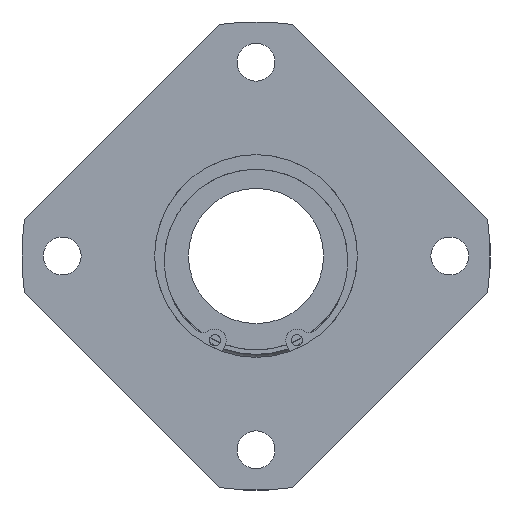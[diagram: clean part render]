
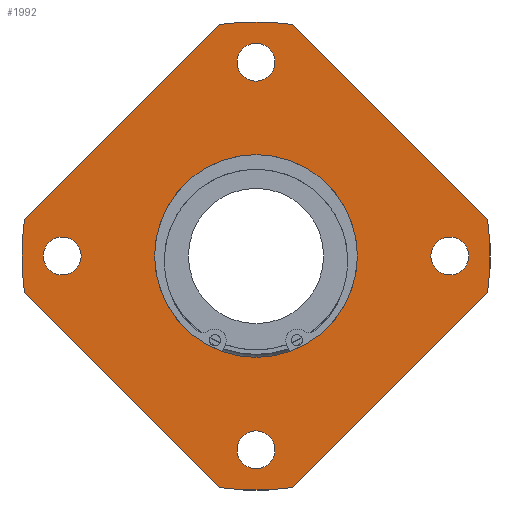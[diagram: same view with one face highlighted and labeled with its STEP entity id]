
A CAD part, left-side view. The second image highlights one B-rep face of the part: STEP entity #1992.
In plain terms, the highlighted planar face has unit normal (-1, 0, 0).
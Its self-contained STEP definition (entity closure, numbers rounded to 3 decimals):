
#60=CARTESIAN_POINT('',(0.0,43.,-4.188));
#61=VERTEX_POINT('',#60);
#62=CARTESIAN_POINT('',(0.0,43.,0.));
#63=DIRECTION('',(1.0,0.0,0.0));
#64=DIRECTION('',(0.0,0.0,-1.0));
#65=AXIS2_PLACEMENT_3D('',#62,#63,#64);
#66=CIRCLE('',#65,4.188);
#67=EDGE_CURVE('',#61,#61,#66,.T.);
#88=CARTESIAN_POINT('',(0.0,-4.188,-43.));
#89=VERTEX_POINT('',#88);
#90=CARTESIAN_POINT('',(0.0,0.,-43.));
#91=DIRECTION('',(1.0,0.0,0.0));
#92=DIRECTION('',(0.0,-1.0,0.0));
#93=AXIS2_PLACEMENT_3D('',#90,#91,#92);
#94=CIRCLE('',#93,4.188);
#95=EDGE_CURVE('',#89,#89,#94,.T.);
#116=CARTESIAN_POINT('',(0.0,-43.,4.188));
#117=VERTEX_POINT('',#116);
#118=CARTESIAN_POINT('',(0.0,-43.,0.));
#119=DIRECTION('',(1.0,0.0,0.0));
#120=DIRECTION('',(0.0,0.0,1.0));
#121=AXIS2_PLACEMENT_3D('',#118,#119,#120);
#122=CIRCLE('',#121,4.188);
#123=EDGE_CURVE('',#117,#117,#122,.T.);
#144=CARTESIAN_POINT('',(0.0,4.188,43.));
#145=VERTEX_POINT('',#144);
#146=CARTESIAN_POINT('',(0.0,0.0,43.));
#147=DIRECTION('',(1.0,0.0,0.0));
#148=DIRECTION('',(0.0,1.0,0.0));
#149=AXIS2_PLACEMENT_3D('',#146,#147,#148);
#150=CIRCLE('',#149,4.188);
#151=EDGE_CURVE('',#145,#145,#150,.T.);
#171=CARTESIAN_POINT('',(0.0,8.019,-51.378));
#172=VERTEX_POINT('',#171);
#179=CARTESIAN_POINT('',(0.0,51.378,-8.019));
#180=VERTEX_POINT('',#179);
#181=CARTESIAN_POINT('',(0.0,51.378,-8.019));
#182=DIRECTION('',(0.0,-0.707,-0.707));
#183=VECTOR('',#182,61.319);
#184=LINE('',#181,#183);
#185=EDGE_CURVE('',#180,#172,#184,.T.);
#211=CARTESIAN_POINT('',(0.0,51.378,8.019));
#212=VERTEX_POINT('',#211);
#219=CARTESIAN_POINT('',(0.0,8.019,51.378));
#220=VERTEX_POINT('',#219);
#221=CARTESIAN_POINT('',(0.0,8.019,51.378));
#222=DIRECTION('',(0.0,0.707,-0.707));
#223=VECTOR('',#222,61.319);
#224=LINE('',#221,#223);
#225=EDGE_CURVE('',#220,#212,#224,.T.);
#251=CARTESIAN_POINT('',(0.0,-51.378,-8.019));
#252=VERTEX_POINT('',#251);
#259=CARTESIAN_POINT('',(0.0,-8.019,-51.378));
#260=VERTEX_POINT('',#259);
#261=CARTESIAN_POINT('',(0.0,-8.019,-51.378));
#262=DIRECTION('',(0.0,-0.707,0.707));
#263=VECTOR('',#262,61.319);
#264=LINE('',#261,#263);
#265=EDGE_CURVE('',#260,#252,#264,.T.);
#291=CARTESIAN_POINT('',(0.0,-8.019,51.378));
#292=VERTEX_POINT('',#291);
#299=CARTESIAN_POINT('',(0.0,-51.378,8.019));
#300=VERTEX_POINT('',#299);
#301=CARTESIAN_POINT('',(0.0,-51.378,8.019));
#302=DIRECTION('',(0.0,0.707,0.707));
#303=VECTOR('',#302,61.319);
#304=LINE('',#301,#303);
#305=EDGE_CURVE('',#300,#292,#304,.T.);
#330=CARTESIAN_POINT('',(0.0,0.0,0.0));
#331=DIRECTION('',(-1.0,0.0,0.0));
#332=DIRECTION('',(0.0,0.0,1.0));
#333=AXIS2_PLACEMENT_3D('',#330,#331,#332);
#334=CIRCLE('',#333,52.0);
#335=EDGE_CURVE('',#252,#300,#334,.T.);
#346=CARTESIAN_POINT('',(0.0,0.0,0.0));
#347=DIRECTION('',(-1.0,0.0,0.0));
#348=DIRECTION('',(0.0,0.0,1.0));
#349=AXIS2_PLACEMENT_3D('',#346,#347,#348);
#350=CIRCLE('',#349,52.0);
#351=EDGE_CURVE('',#292,#220,#350,.T.);
#370=CARTESIAN_POINT('',(0.0,0.0,0.0));
#371=DIRECTION('',(-1.0,0.0,0.0));
#372=DIRECTION('',(0.0,0.0,1.0));
#373=AXIS2_PLACEMENT_3D('',#370,#371,#372);
#374=CIRCLE('',#373,52.0);
#375=EDGE_CURVE('',#212,#180,#374,.T.);
#402=CARTESIAN_POINT('',(0.0,0.0,0.0));
#403=DIRECTION('',(-1.0,0.0,0.0));
#404=DIRECTION('',(0.0,0.0,1.0));
#405=AXIS2_PLACEMENT_3D('',#402,#403,#404);
#406=CIRCLE('',#405,52.0);
#407=EDGE_CURVE('',#172,#260,#406,.T.);
#1954=CARTESIAN_POINT('',(0.0,0.0,37.25));
#1955=DIRECTION('',(-1.0,0.0,0.0));
#1956=DIRECTION('',(0.0,0.0,1.0));
#1957=AXIS2_PLACEMENT_3D('',#1954,#1955,#1956);
#1958=PLANE('',#1957);
#1959=ORIENTED_EDGE('',*,*,#185,.T.);
#1960=ORIENTED_EDGE('',*,*,#407,.T.);
#1961=ORIENTED_EDGE('',*,*,#265,.T.);
#1962=ORIENTED_EDGE('',*,*,#335,.T.);
#1963=ORIENTED_EDGE('',*,*,#305,.T.);
#1964=ORIENTED_EDGE('',*,*,#351,.T.);
#1965=ORIENTED_EDGE('',*,*,#225,.T.);
#1966=ORIENTED_EDGE('',*,*,#375,.T.);
#1967=EDGE_LOOP('',(#1959,#1960,#1961,#1962,#1963,#1964,#1965,#1966));
#1968=FACE_OUTER_BOUND('',#1967,.T.);
#1969=ORIENTED_EDGE('',*,*,#67,.T.);
#1970=EDGE_LOOP('',(#1969));
#1971=FACE_BOUND('',#1970,.T.);
#1972=ORIENTED_EDGE('',*,*,#95,.T.);
#1973=EDGE_LOOP('',(#1972));
#1974=FACE_BOUND('',#1973,.T.);
#1975=ORIENTED_EDGE('',*,*,#123,.T.);
#1976=EDGE_LOOP('',(#1975));
#1977=FACE_BOUND('',#1976,.T.);
#1978=ORIENTED_EDGE('',*,*,#151,.T.);
#1979=EDGE_LOOP('',(#1978));
#1980=FACE_BOUND('',#1979,.T.);
#1981=CARTESIAN_POINT('',(0.0,0.0,22.5));
#1982=VERTEX_POINT('',#1981);
#1983=CARTESIAN_POINT('',(0.0,0.0,0.0));
#1984=DIRECTION('',(-1.0,0.0,0.0));
#1985=DIRECTION('',(0.0,0.0,1.0));
#1986=AXIS2_PLACEMENT_3D('',#1983,#1984,#1985);
#1987=CIRCLE('',#1986,22.5);
#1988=EDGE_CURVE('',#1982,#1982,#1987,.T.);
#1989=ORIENTED_EDGE('',*,*,#1988,.F.);
#1990=EDGE_LOOP('',(#1989));
#1991=FACE_BOUND('',#1990,.T.);
#1992=ADVANCED_FACE('',(#1968,#1971,#1974,#1977,#1980,#1991),#1958,.T.);
